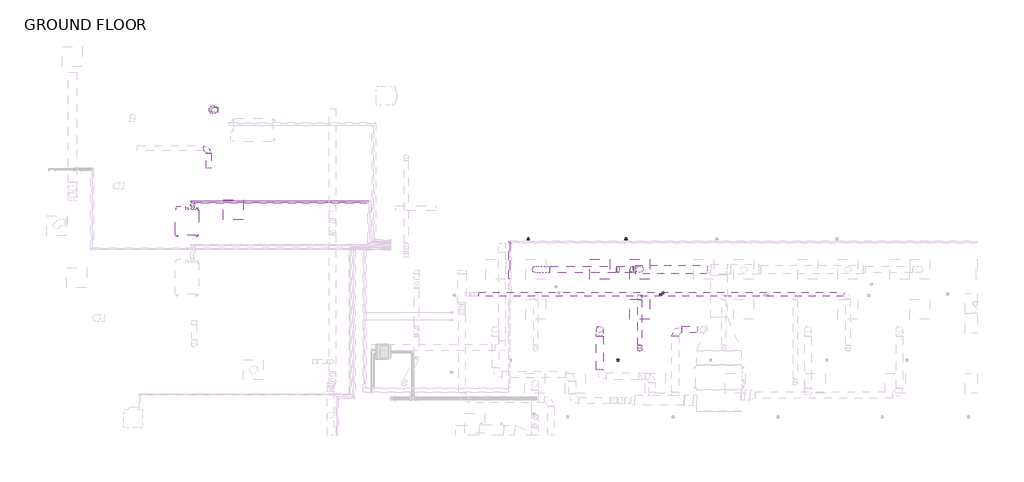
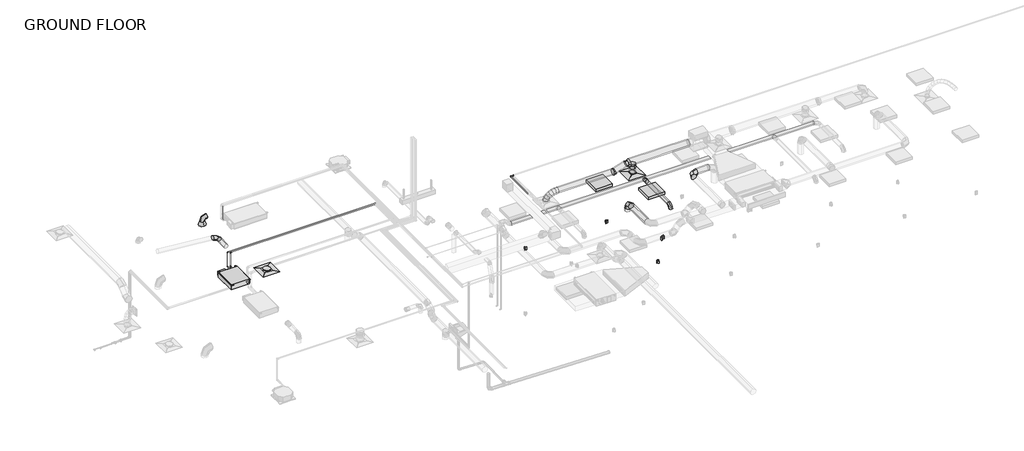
# One storey, part 16 of 21: 13 duct segments, 11 duct fittings, 9 pipe segments, 7 pipe fittings, 5 proxies, 2 air terminals, 2 light fixtures, 1 switching device.
"""IFC4 building model written with IfcOpenShell, lengths in millimetres."""

from ifc_helpers import new_model, si_unit, point, frame, frame_2d, origin, place, context, project, spatial, circle_curve, ellipse_curve, trimmed, segment, composite_curve, outline, extrude, transform, mapped, element, save
from ifc_brep_helpers import plane_surface, cylinder_surface, advanced_brep
from components import air_terminal_a1f6e78c, air_terminal_e9020785, mechanical_equipment_deea6110, duplex_receptacle_countertop_10251bba, round_elbow_1_d_a253342a, round_elbow_1_d_b37ad80b, round_elbow_1_d_c80420c1, round_elbow_1_d_adb29f0a, round_takeoff_standard_ca4b4131, round_takeoff_standard_17dc06e3, round_transition_angle_45_degree_b52f7b1d, round_transition_angle_45_degree_2c0294df, troffer_corner_insert_2x2_3lamp_e67c7f8f, elbow_generic_standard_c06ac706, elbow_generic_standard_738589b0, elbow_generic_standard_3179f303, elbow_generic_standard_e3098451, transition_generic_standard_43f54093

model = new_model("IFC4")

# Units and contexts
model_context = context("Model", 3, world=origin())
ifc_project = project(units=[si_unit("LENGTHUNIT", "METRE", prefix="MILLI")], contexts=[model_context])

# Site, building, storey
site = spatial("IfcSite", under=ifc_project)
building = spatial("IfcBuilding", under=site)
storey = spatial("IfcBuildingStorey", under=building, Name="GROUND FLOOR", Elevation=30480.0)

# Air terminals
placement = place(None, origin())
air_terminal_shape = air_terminal_a1f6e78c(model_context)
element("IfcAirTerminal", 1, ObjectType="Supply Diffuser - Rectangular Face Round Neck - Hosted : 24\"x24\" Face 10\" Neck - Hosted", at=placement, inside=storey, context=model_context, shape_type="MappedRepresentation", body=[
    mapped(air_terminal_shape, transform((-14215.1079607, 8625.8820005, 32715.2), x_axis=(-1.0, 0.0, 0.0), y_axis=(0.0, 1.0, 0.0), z_axis=(0.0, 0.0, -1.0))),
])
air_terminal_2_shape = air_terminal_e9020785(model_context)
element("IfcAirTerminal", 2, ObjectType="Supply Diffuser - Rectangular Face Round Neck - Hosted : 24\"x24\" Face 8\" Neck - Hosted", at=placement, inside=storey, context=model_context, shape_type="MappedRepresentation", body=[
    mapped(air_terminal_2_shape, transform((-1837.3704607, 6811.3695005, 33223.2), x_axis=(0.0, -1.0, 0.0), y_axis=(-1.0, 0.0, 0.0), z_axis=(0.0, 0.0, -1.0))),
])

# Proxies
mechanical_equipment_shape = mechanical_equipment_deea6110(model_context)
element("IfcBuildingElementProxy", 3, Name="PEFY-P-NMSU-E_Low_Profile_Ducted : PEFY-P12NMSU-E", ObjectType="PEFY-P-NMSU-E_Low_Profile_Ducted : PEFY-P12NMSU-E", at=placement, inside=storey, context=model_context, shape_type="MappedRepresentation", body=[
    mapped(mechanical_equipment_shape, transform((-15624.8774525, 8243.4520797, 33021.7207031), x_axis=(0.0, 1.0, 0.0), y_axis=(-1.0, 0.0, 0.0), z_axis=(0.0, 0.0, 1.0))),
])
duplex_receptacle_countertop_shape = duplex_receptacle_countertop_10251bba(model_context)
element("IfcBuildingElementProxy", 4, Name="Duplex Receptacle : Standard", ObjectType="Duplex Receptacle : Standard", at=placement, inside=storey, context=model_context, shape_type="MappedRepresentation", body=[
    mapped(duplex_receptacle_countertop_shape, transform((-5231.5700418, 7725.7695005, 30937.2), x_axis=(-1.0, 0.0, 0.0), y_axis=(0.0, 0.0, -1.0), z_axis=(0.0, -1.0, 0.0))),
])
element("IfcBuildingElementProxy", 5, Name="Duplex Receptacle : Standard", ObjectType="Duplex Receptacle : Standard", at=placement, inside=storey, context=model_context, shape_type="MappedRepresentation", body=[
    mapped(duplex_receptacle_countertop_shape, transform((-2255.887518, 7725.7695005, 30937.2), x_axis=(-1.0, 0.0, 0.0), y_axis=(0.0, 0.0, -1.0), z_axis=(0.0, -1.0, 0.0))),
])
element("IfcBuildingElementProxy", 6, Name="Duplex Receptacle : Standard", ObjectType="Duplex Receptacle : Standard", at=placement, inside=storey, context=model_context, shape_type="MappedRepresentation", body=[
    mapped(duplex_receptacle_countertop_shape, transform((-1227.7704607, 6038.2733061, 30937.2), x_axis=(0.0, -1.0, 0.0), y_axis=(0.0, 0.0, 1.0), z_axis=(-1.0, 0.0, 0.0))),
])
element("IfcBuildingElementProxy", 7, Name="Duplex Receptacle : Standard", ObjectType="Duplex Receptacle : Standard", at=placement, inside=storey, context=model_context, shape_type="MappedRepresentation", body=[
    mapped(duplex_receptacle_countertop_shape, transform((-1103.9454607, 6101.6354535, 30937.2), x_axis=(0.0, 1.0, 0.0), y_axis=(0.0, 0.0, 1.0), z_axis=(1.0, 0.0, 0.0))),
])

# Duct fittings
round_elbow_1_d_shape = round_elbow_1_d_a253342a(model_context)
element("IfcDuctFitting", 8, ObjectType="Round Elbow : 1 D", at=placement, inside=storey, context=model_context, shape_type="MappedRepresentation", body=[
    mapped(round_elbow_1_d_shape, transform((-3056.5704607, 4982.5695005, 33629.6), x_axis=(0.0, 0.0, 1.0), y_axis=(0.0, -1.0, 0.0), z_axis=(1.0, 0.0, 0.0))),
])
element("IfcDuctFitting", 9, ObjectType="Round Elbow : 1 D", at=placement, inside=storey, context=model_context, shape_type="MappedRepresentation", body=[
    mapped(round_elbow_1_d_shape, transform((-754.6339071, 4982.5695005, 33947.89375), x_axis=(-1.0, 0.0, 0.0), y_axis=(0.0, -1.0, 0.0), z_axis=(0.0, 0.0, 1.0))),
])
round_elbow_1_d_2_shape = round_elbow_1_d_b37ad80b(model_context)
element("IfcDuctFitting", 10, ObjectType="Round Elbow : 1 D", at=placement, inside=storey, context=model_context, shape_type="MappedRepresentation", body=[
    mapped(round_elbow_1_d_2_shape, transform((-14824.7079607, 11673.8820005, 33121.6), x_axis=(0.0, 0.0, 1.0), y_axis=(1.0, 0.0, 0.0), z_axis=(0.0, 1.0, 0.0))),
])
element("IfcDuctFitting", 11, ObjectType="Round Elbow : 1 D", at=placement, inside=storey, context=model_context, shape_type="MappedRepresentation", body=[
    mapped(round_elbow_1_d_2_shape, transform((-14970.033703, 10498.3395797, 33121.6), x_axis=(0.0, 1.0, 0.0), y_axis=(-0.9961916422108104, 0.0, 0.08719066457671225), z_axis=(0.08719066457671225, 0.0, 0.9961916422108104))),
])
round_elbow_1_d_3_shape = round_elbow_1_d_c80420c1(model_context)
element("IfcDuctFitting", 12, ObjectType="Round Elbow : 1 D", at=placement, inside=storey, context=model_context, shape_type="MappedRepresentation", body=[
    mapped(round_elbow_1_d_3_shape, transform((-1837.3704607, 4372.9695005, 33464.5), x_axis=(0.0, -1.0, 0.0), y_axis=(0.0, 0.0, -1.0), z_axis=(1.0, 0.0, 0.0))),
])
round_elbow_1_d_4_shape = round_elbow_1_d_adb29f0a(model_context)
element("IfcDuctFitting", 13, ObjectType="Round Elbow : 1 D", at=placement, inside=storey, context=model_context, shape_type="MappedRepresentation", body=[
    mapped(round_elbow_1_d_4_shape, transform((-2055.3843434, 6811.3695005, 33680.0490295), x_axis=(-1.0, 0.0, 0.0), y_axis=(0.0, 0.0, -1.0), z_axis=(0.0, -1.0, 0.0))),
])
element("IfcDuctFitting", 14, ObjectType="Round Elbow : 1 D", at=placement, inside=storey, context=model_context, shape_type="MappedRepresentation", body=[
    mapped(round_elbow_1_d_4_shape, transform((-2523.3431384, 6811.3695005, 33528.0), x_axis=(-0.9510565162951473, 0.0, -0.30901699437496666), y_axis=(-0.30901699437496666, 0.0, 0.9510565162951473), z_axis=(0.0, 1.0, 0.0))),
])
round_takeoff_standard_shape = round_takeoff_standard_ca4b4131(model_context)
element("IfcDuctFitting", 15, ObjectType="Round Takeoff : Standard", at=placement, inside=storey, context=model_context, shape_type="MappedRepresentation", body=[
    mapped(round_takeoff_standard_shape, transform((-1837.3704607, 6811.3695005, 33553.0490295), x_axis=(0.0, 0.0, -1.0), y_axis=(1.0, 0.0, 0.0), z_axis=(0.0, -1.0, 0.0))),
])
round_takeoff_standard_2_shape = round_takeoff_standard_17dc06e3(model_context)
element("IfcDuctFitting", 16, ObjectType="Round Takeoff : Standard", at=placement, inside=storey, context=model_context, shape_type="MappedRepresentation", body=[
    mapped(round_takeoff_standard_2_shape, transform((-1837.3704607, 5985.8695005, 33464.5), x_axis=(0.0, -1.0, 0.0), y_axis=(-1.0, 0.0, 0.0), z_axis=(0.0, 0.0, -1.0))),
])
round_transition_angle_45_degree_shape = round_transition_angle_45_degree_b52f7b1d(model_context)
element("IfcDuctFitting", 17, ObjectType="Round Transition - Angle : 45 Degree", at=placement, inside=storey, context=model_context, shape_type="MappedRepresentation", body=[
    mapped(round_transition_angle_45_degree_shape, transform((-14824.7079607, 11673.8820005, 32846.557951), x_axis=(0.0, 0.0, 1.0), y_axis=(0.0, 1.0, 0.0), z_axis=(-1.0, 0.0, 0.0))),
])
round_transition_angle_45_degree_2_shape = round_transition_angle_45_degree_2c0294df(model_context)
element("IfcDuctFitting", 18, ObjectType="Round Transition - Angle : 45 Degree", at=placement, inside=storey, context=model_context, shape_type="MappedRepresentation", body=[
    mapped(round_transition_angle_45_degree_2_shape, transform((-1961.8796006, 6811.3695005, 33680.0490295), x_axis=(-1.0, 0.0, 0.0), y_axis=(0.0, -1.0, 0.0), z_axis=(0.0, 0.0, 1.0))),
])

# Duct segments
element("IfcDuctSegment", 19, ObjectType="Flex - Round", at=placement, inside=storey, context=model_context, shape_type="AdvancedBrep", body=[
    advanced_brep(
    [(-4580.7431384, 6709.7695005, 33528.0), (-4580.7431384, 6811.3695005, 33426.4), (-4580.7431384, 6912.9695005, 33528.0), (-4580.7431384, 6811.3695005, 33629.6), (-4588.790283, 6709.7695005, 33528.0), (-4584.3622178, 6811.3695005, 33426.4), (-4588.790283, 6912.9695005, 33528.0), (-4593.2183481, 6811.3695005, 33629.6), (-5009.1954607, 6709.7695005, 33277.175), (-5110.7954607, 6811.3695005, 33277.175), (-5009.1954607, 6912.9695005, 33277.175), (-4907.5954607, 6811.3695005, 33277.175), (-4669.9423992, 6709.7695005, 33520.9127807), (-4654.4566913, 6811.3695005, 33420.2784726), (-4669.9423992, 6912.9695005, 33520.9127807), (-4685.4281072, 6811.3695005, 33621.5470889), (-4765.3747964, 6709.7695005, 33499.7470094), (-4736.047964, 6811.3695005, 33402.1824982), (-4765.3747964, 6912.9695005, 33499.7470094), (-4794.7016287, 6811.3695005, 33597.3115207), (-4857.0283155, 6709.7695005, 33464.6465159), (-4811.4139874, 6811.3695005, 33373.3196172), (-4857.0283155, 6912.9695005, 33464.6465159), (-4902.6426435, 6811.3695005, 33555.9734146), (-4934.8909421, 6709.7695005, 33415.75513), (-4867.9774847, 6811.3695005, 33337.8023492), (-4934.8909421, 6912.9695005, 33415.75513), (-5001.8043995, 6811.3695005, 33493.7079107), (-4988.950662, 6709.7695005, 33353.2166814), (-4901.1121467, 6811.3695005, 33299.4708454), (-4988.950662, 6912.9695005, 33353.2166814), (-5076.7891773, 6811.3695005, 33406.9625174), (-5009.1954607, 6709.7695005, 33303.3137649), (-4907.5954607, 6811.3695005, 33283.4896405), (-5009.1954607, 6912.9695005, 33303.3137649), (-5110.7954607, 6811.3695005, 33323.1378893)],
    [
        (0, 1, circle_curve(frame((-4580.7431384, 6811.3695005, 33528.0), z_axis=(1.0, 0.0, 0.0), x_axis=(0.0, -1.0, 0.0)), 101.6)),
        (1, 2, circle_curve(frame((-4580.7431384, 6811.3695005, 33528.0), z_axis=(1.0, 0.0, 0.0), x_axis=(0.0, -1.0, 0.0)), 101.6)),
        (2, 3, circle_curve(frame((-4580.7431384, 6811.3695005, 33528.0), z_axis=(1.0, 0.0, 0.0), x_axis=(0.0, -1.0, 0.0)), 101.6)),
        (3, 0, circle_curve(frame((-4580.7431384, 6811.3695005, 33528.0), z_axis=(1.0, 0.0, 0.0), x_axis=(0.0, -1.0, 0.0)), 101.6)),
        (0, 4),
        (4, 5, ellipse_curve(frame((-4588.790283, 6811.3695005, 33528.0), z_axis=(0.9990515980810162, 0.0, 0.043541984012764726), x_axis=(0.043541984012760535, 0.0, -0.9990515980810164)), 101.6964491, 101.6)),
        (5, 1),
        (5, 6, ellipse_curve(frame((-4588.790283, 6811.3695005, 33528.0), z_axis=(0.9990515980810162, 0.0, 0.043541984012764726), x_axis=(0.043541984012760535, 0.0, -0.9990515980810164)), 101.6964491, 101.6)),
        (6, 2),
        (6, 7, ellipse_curve(frame((-4588.790283, 6811.3695005, 33528.0), z_axis=(0.9990515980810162, 0.0, 0.043541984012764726), x_axis=(0.043541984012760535, 0.0, -0.9990515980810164)), 101.6964491, 101.6)),
        (7, 3),
        (7, 4, ellipse_curve(frame((-4588.790283, 6811.3695005, 33528.0), z_axis=(0.9990515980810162, 0.0, 0.043541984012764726), x_axis=(0.043541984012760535, 0.0, -0.9990515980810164)), 101.6964491, 101.6)),
        (8, 9, circle_curve(frame((-5009.1954607, 6811.3695005, 33277.175), z_axis=(0.0, 0.0, -1.0), x_axis=(0.0, -1.0, 0.0)), 101.6)),
        (9, 10, circle_curve(frame((-5009.1954607, 6811.3695005, 33277.175), z_axis=(0.0, 0.0, -1.0), x_axis=(0.0, -1.0, 0.0)), 101.6)),
        (10, 11, circle_curve(frame((-5009.1954607, 6811.3695005, 33277.175), z_axis=(0.0, 0.0, -1.0), x_axis=(0.0, -1.0, 0.0)), 101.6)),
        (11, 8, circle_curve(frame((-5009.1954607, 6811.3695005, 33277.175), z_axis=(0.0, 0.0, -1.0), x_axis=(0.0, -1.0, 0.0)), 101.6)),
        (4, 12),
        (12, 13, ellipse_curve(frame((-4669.9423992, 6811.3695005, 33520.9127807), z_axis=(0.9883665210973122, 0.0, 0.15209082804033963), x_axis=(0.15209082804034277, 0.0, -0.9883665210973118)), 101.8188152, 101.6)),
        (13, 5),
        (13, 14, ellipse_curve(frame((-4669.9423992, 6811.3695005, 33520.9127807), z_axis=(0.9883665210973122, 0.0, 0.15209082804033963), x_axis=(0.15209082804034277, 0.0, -0.9883665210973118)), 101.8188152, 101.6)),
        (14, 6),
        (14, 15, ellipse_curve(frame((-4669.9423992, 6811.3695005, 33520.9127807), z_axis=(0.9883665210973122, 0.0, 0.15209082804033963), x_axis=(0.15209082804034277, 0.0, -0.9883665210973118)), 101.8188152, 101.6)),
        (15, 7),
        (15, 12, ellipse_curve(frame((-4669.9423992, 6811.3695005, 33520.9127807), z_axis=(0.9883665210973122, 0.0, 0.15209082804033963), x_axis=(0.15209082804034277, 0.0, -0.9883665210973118)), 101.8188152, 101.6)),
        (12, 16),
        (16, 17, ellipse_curve(frame((-4765.3747964, 6811.3695005, 33499.7470094), z_axis=(0.9576708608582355, 0.0, 0.2878654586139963), x_axis=(0.2878654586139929, 0.0, -0.9576708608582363)), 101.8768715, 101.6)),
        (17, 13),
        (17, 18, ellipse_curve(frame((-4765.3747964, 6811.3695005, 33499.7470094), z_axis=(0.9576708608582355, 0.0, 0.2878654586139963), x_axis=(0.2878654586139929, 0.0, -0.9576708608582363)), 101.8768715, 101.6)),
        (18, 14),
        (18, 19, ellipse_curve(frame((-4765.3747964, 6811.3695005, 33499.7470094), z_axis=(0.9576708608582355, 0.0, 0.2878654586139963), x_axis=(0.2878654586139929, 0.0, -0.9576708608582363)), 101.8768715, 101.6)),
        (19, 15),
        (19, 16, ellipse_curve(frame((-4765.3747964, 6811.3695005, 33499.7470094), z_axis=(0.9576708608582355, 0.0, 0.2878654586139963), x_axis=(0.2878654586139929, 0.0, -0.9576708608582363)), 101.8768715, 101.6)),
        (16, 20),
        (20, 21, ellipse_curve(frame((-4857.0283155, 6811.3695005, 33464.6465159), z_axis=(0.8946195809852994, 0.0, 0.4468286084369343), x_axis=(0.44682860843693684, 0.0, -0.8946195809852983)), 102.0846186, 101.6)),
        (21, 17),
        (21, 22, ellipse_curve(frame((-4857.0283155, 6811.3695005, 33464.6465159), z_axis=(0.8946195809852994, 0.0, 0.4468286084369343), x_axis=(0.44682860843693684, 0.0, -0.8946195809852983)), 102.0846186, 101.6)),
        (22, 18),
        (22, 23, ellipse_curve(frame((-4857.0283155, 6811.3695005, 33464.6465159), z_axis=(0.8946195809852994, 0.0, 0.4468286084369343), x_axis=(0.44682860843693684, 0.0, -0.8946195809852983)), 102.0846186, 101.6)),
        (23, 19),
        (23, 20, ellipse_curve(frame((-4857.0283155, 6811.3695005, 33464.6465159), z_axis=(0.8946195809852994, 0.0, 0.4468286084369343), x_axis=(0.44682860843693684, 0.0, -0.8946195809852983)), 102.0846186, 101.6)),
        (20, 24),
        (24, 25, ellipse_curve(frame((-4934.8909421, 6811.3695005, 33415.75513), z_axis=(0.7587908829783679, 0.0, 0.6513343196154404), x_axis=(0.6513343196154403, 0.0, -0.758790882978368)), 102.7328906, 101.6)),
        (25, 21),
        (25, 26, ellipse_curve(frame((-4934.8909421, 6811.3695005, 33415.75513), z_axis=(0.7587908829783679, 0.0, 0.6513343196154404), x_axis=(0.6513343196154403, 0.0, -0.758790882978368)), 102.7328906, 101.6)),
        (26, 22),
        (26, 27, ellipse_curve(frame((-4934.8909421, 6811.3695005, 33415.75513), z_axis=(0.7587908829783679, 0.0, 0.6513343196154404), x_axis=(0.6513343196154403, 0.0, -0.758790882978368)), 102.7328906, 101.6)),
        (27, 23),
        (27, 24, ellipse_curve(frame((-4934.8909421, 6811.3695005, 33415.75513), z_axis=(0.7587908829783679, 0.0, 0.6513343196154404), x_axis=(0.6513343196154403, 0.0, -0.758790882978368)), 102.7328906, 101.6)),
        (24, 28),
        (28, 29, ellipse_curve(frame((-4988.950662, 6811.3695005, 33353.2166814), z_axis=(0.5219218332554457, 0.0, 0.852993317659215), x_axis=(0.8529933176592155, 0.0, -0.521921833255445)), 102.9767918, 101.6)),
        (29, 25),
        (29, 30, ellipse_curve(frame((-4988.950662, 6811.3695005, 33353.2166814), z_axis=(0.5219218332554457, 0.0, 0.852993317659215), x_axis=(0.8529933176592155, 0.0, -0.521921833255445)), 102.9767918, 101.6)),
        (30, 26),
        (30, 31, ellipse_curve(frame((-4988.950662, 6811.3695005, 33353.2166814), z_axis=(0.5219218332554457, 0.0, 0.852993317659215), x_axis=(0.8529933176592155, 0.0, -0.521921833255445)), 102.9767918, 101.6)),
        (31, 27),
        (31, 28, ellipse_curve(frame((-4988.950662, 6811.3695005, 33353.2166814), z_axis=(0.5219218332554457, 0.0, 0.852993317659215), x_axis=(0.8529933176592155, 0.0, -0.521921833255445)), 102.9767918, 101.6)),
        (28, 32),
        (32, 33, ellipse_curve(frame((-5009.1954607, 6811.3695005, 33303.3137649), z_axis=(0.1915078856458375, 0.0, 0.9814910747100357), x_axis=(0.9814910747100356, 0.0, -0.1915078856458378)), 103.5159693, 101.6)),
        (33, 29),
        (33, 34, ellipse_curve(frame((-5009.1954607, 6811.3695005, 33303.3137649), z_axis=(0.1915078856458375, 0.0, 0.9814910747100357), x_axis=(0.9814910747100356, 0.0, -0.1915078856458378)), 103.5159693, 101.6)),
        (34, 30),
        (34, 35, ellipse_curve(frame((-5009.1954607, 6811.3695005, 33303.3137649), z_axis=(0.1915078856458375, 0.0, 0.9814910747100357), x_axis=(0.9814910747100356, 0.0, -0.1915078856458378)), 103.5159693, 101.6)),
        (35, 31),
        (35, 32, ellipse_curve(frame((-5009.1954607, 6811.3695005, 33303.3137649), z_axis=(0.1915078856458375, 0.0, 0.9814910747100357), x_axis=(0.9814910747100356, 0.0, -0.1915078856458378)), 103.5159693, 101.6)),
        (32, 8),
        (11, 33),
        (10, 34),
        (9, 35),
    ],
    [
        plane_surface(frame((-4580.7431384, 6811.3695005, 33426.4), z_axis=(1.0, 0.0, 0.0), x_axis=(0.0, -1.0, 0.0))),
        cylinder_surface(frame((-4580.7431384, 6811.3695005, 33528.0), z_axis=(1.0, 0.0, 0.0), x_axis=(0.0, -1.0, 0.0)), 101.6),
        plane_surface(frame((-5009.1954607, 6709.7695005, 33277.175), z_axis=(0.0, 0.0, -1.0), x_axis=(-1.0, 0.0, 0.0))),
        cylinder_surface(frame((-4588.790283, 6811.3695005, 33528.0), z_axis=(0.9962081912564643, 0.0, 0.0870013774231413), x_axis=(0.0, -1.0, 0.0)), 101.6),
        cylinder_surface(frame((-4669.9423992, 6811.3695005, 33520.9127807), z_axis=(0.9762767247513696, 0.0, 0.2165265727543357), x_axis=(0.0, -1.0, 0.0)), 101.6),
        cylinder_surface(frame((-4765.3747964, 6811.3695005, 33499.7470094), z_axis=(0.9338596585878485, 0.0, 0.3576396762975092), x_axis=(0.0, -1.0, 0.0)), 101.6),
        cylinder_surface(frame((-4857.0283155, 6811.3695005, 33464.6465159), z_axis=(0.8468855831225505, 0.0, 0.5317751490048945), x_axis=(0.0, -1.0, 0.0)), 101.6),
        cylinder_surface(frame((-4934.8909421, 6811.3695005, 33415.75513), z_axis=(0.653960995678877, 0.0, 0.7565282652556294), x_axis=(0.0, -1.0, 0.0)), 101.6),
        cylinder_surface(frame((-4988.950662, 6811.3695005, 33353.2166814), z_axis=(0.3759265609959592, 0.0, 0.9266494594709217), x_axis=(0.0, -1.0, 0.0)), 101.6),
        cylinder_surface(frame((-5009.1954607, 6811.3695005, 33303.3137649), z_axis=(0.0, 0.0, 1.0), x_axis=(0.0, -1.0, 0.0)), 101.6),
    ],
    [
        (0, [[1, 2, 3, 4]]),
        (1, [[-1, 5, 6, 7]]),
        (1, [[-2, -7, 8, 9]]),
        (1, [[-3, -9, 10, 11]]),
        (1, [[-4, -11, 12, -5]]),
        (2, [[13, 14, 15, 16]]),
        (3, [[-6, 17, 18, 19]]),
        (3, [[-8, -19, 20, 21]]),
        (3, [[-10, -21, 22, 23]]),
        (3, [[-12, -23, 24, -17]]),
        (4, [[-18, 25, 26, 27]]),
        (4, [[-20, -27, 28, 29]]),
        (4, [[-22, -29, 30, 31]]),
        (4, [[-24, -31, 32, -25]]),
        (5, [[-26, 33, 34, 35]]),
        (5, [[-28, -35, 36, 37]]),
        (5, [[-30, -37, 38, 39]]),
        (5, [[-32, -39, 40, -33]]),
        (6, [[-34, 41, 42, 43]]),
        (6, [[-36, -43, 44, 45]]),
        (6, [[-38, -45, 46, 47]]),
        (6, [[-40, -47, 48, -41]]),
        (7, [[-42, 49, 50, 51]]),
        (7, [[-44, -51, 52, 53]]),
        (7, [[-46, -53, 54, 55]]),
        (7, [[-48, -55, 56, -49]]),
        (8, [[-50, 57, 58, 59]]),
        (8, [[-52, -59, 60, 61]]),
        (8, [[-54, -61, 62, 63]]),
        (8, [[-56, -63, 64, -57]]),
        (9, [[-58, 65, -16, 66]]),
        (9, [[-60, -66, -15, 67]]),
        (9, [[-62, -67, -14, 68]]),
        (9, [[-64, -68, -13, -65]]),
    ],
),
])
element("IfcDuctSegment", 20, ObjectType="Taps / Short Radius", at=placement, inside=storey, context=model_context, shape_type="SweptSolid", body=[
    extrude(outline(composite_curve([segment(trimmed(circle_curve(frame_2d((-14824.7079607, 11673.8820005)), 127.0), [point((-14824.7079607, 11546.8820005))], [point((-14951.7079607, 11673.8820005))], False, "CARTESIAN"), True, "CONTINUOUS"), segment(trimmed(circle_curve(frame_2d((-14824.7079607, 11673.8820005)), 127.0), [point((-14951.7079607, 11673.8820005))], [point((-14824.7079607, 11800.8820005))], False, "CARTESIAN"), True, "CONTINUOUS"), segment(trimmed(circle_curve(frame_2d((-14824.7079607, 11673.8820005)), 127.0), [point((-14824.7079607, 11800.8820005))], [point((-14697.7079607, 11673.8820005))], False, "CARTESIAN"), True, "CONTINUOUS"), segment(trimmed(circle_curve(frame_2d((-14824.7079607, 11673.8820005)), 127.0), [point((-14697.7079607, 11673.8820005))], [point((-14824.7079607, 11546.8820005))], False, "CARTESIAN"), True, "CONTINUOUS")], self_intersect=False)), frame((0.0, 0.0, 32816.8), z_axis=(0.0, 0.0, 1.0), x_axis=(1.0, 0.0, 0.0)), (0.0, 0.0, 1.0), 29.757951),
])
element("IfcDuctSegment", 21, ObjectType="Taps / Short Radius", at=placement, inside=storey, context=model_context, shape_type="SweptSolid", body=[
    extrude(outline(composite_curve([segment(trimmed(circle_curve(frame_2d((6811.3695005, 33680.0490295)), 127.0), [point((6938.3695005, 33680.0490295))], [point((6811.3695005, 33553.0490295))], False, "CARTESIAN"), True, "CONTINUOUS"), segment(trimmed(circle_curve(frame_2d((6811.3695005, 33680.0490295)), 127.0), [point((6811.3695005, 33553.0490295))], [point((6684.3695005, 33680.0490295))], False, "CARTESIAN"), True, "CONTINUOUS"), segment(trimmed(circle_curve(frame_2d((6811.3695005, 33680.0490295)), 127.0), [point((6684.3695005, 33680.0490295))], [point((6811.3695005, 33807.0490295))], False, "CARTESIAN"), True, "CONTINUOUS"), segment(trimmed(circle_curve(frame_2d((6811.3695005, 33680.0490295)), 127.0), [point((6811.3695005, 33807.0490295))], [point((6938.3695005, 33680.0490295))], False, "CARTESIAN"), True, "CONTINUOUS")], self_intersect=False)), frame((-1961.8796006, 0.0, 0.0), z_axis=(1.0, 0.0, 0.0), x_axis=(0.0, 1.0, 0.0)), (0.0, 0.0, 1.0), 2182.2731725),
])
element("IfcDuctSegment", 22, ObjectType="Taps / Short Radius", at=placement, inside=storey, context=model_context, shape_type="SweptSolid", body=[
    extrude(outline(composite_curve([segment(trimmed(circle_curve(frame_2d((0.0, -101.6)), 101.6), [point((0.0, 0.0))], [point((101.6, -101.6))], False, "CARTESIAN"), True, "CONTINUOUS"), segment(trimmed(circle_curve(frame_2d((0.0, -101.6)), 101.6), [point((101.6, -101.6))], [point((0.0, -203.2))], False, "CARTESIAN"), True, "CONTINUOUS"), segment(trimmed(circle_curve(frame_2d((0.0, -101.6)), 101.6), [point((0.0, -203.2))], [point((-101.6, -101.6))], False, "CARTESIAN"), True, "CONTINUOUS"), segment(trimmed(circle_curve(frame_2d((0.0, -101.6)), 101.6), [point((-101.6, -101.6))], [point((0.0, 0.0))], False, "CARTESIAN"), True, "CONTINUOUS")], self_intersect=False)), frame((-2492.7346034, 6912.9695005, 33537.9453159), z_axis=(0.9510565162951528, 0.0, 0.30901699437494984), x_axis=(0.30901699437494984, 0.0, -0.9510565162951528)), (0.0, 0.0, 1.0), 427.6735589),
])
element("IfcDuctSegment", 23, ObjectType="Taps / Short Radius", at=placement, inside=storey, context=model_context, shape_type="SweptSolid", body=[
    extrude(outline(composite_curve([segment(trimmed(circle_curve(frame_2d((6811.3695005, 33528.0)), 101.6), [point((6912.9695005, 33528.0))], [point((6811.3695005, 33426.4))], False, "CARTESIAN"), True, "CONTINUOUS"), segment(trimmed(circle_curve(frame_2d((6811.3695005, 33528.0)), 101.6), [point((6811.3695005, 33426.4))], [point((6709.7695005, 33528.0))], False, "CARTESIAN"), True, "CONTINUOUS"), segment(trimmed(circle_curve(frame_2d((6811.3695005, 33528.0)), 101.6), [point((6709.7695005, 33528.0))], [point((6811.3695005, 33629.6))], False, "CARTESIAN"), True, "CONTINUOUS"), segment(trimmed(circle_curve(frame_2d((6811.3695005, 33528.0)), 101.6), [point((6811.3695005, 33629.6))], [point((6912.9695005, 33528.0))], False, "CARTESIAN"), True, "CONTINUOUS")], self_intersect=False)), frame((-4580.7431384, 0.0, 0.0), z_axis=(1.0, 0.0, 0.0), x_axis=(0.0, 1.0, 0.0)), (0.0, 0.0, 1.0), 2025.2162817),
])
element("IfcDuctSegment", 24, ObjectType="Taps / Short Radius", at=placement, inside=storey, context=model_context, shape_type="SweptSolid", body=[
    extrude(outline(composite_curve([segment(trimmed(circle_curve(frame_2d((-1837.3704607, 6811.3695005)), 101.6), [point((-1735.7704607, 6811.3695005))], [point((-1837.3704607, 6709.7695005))], False, "CARTESIAN"), True, "CONTINUOUS"), segment(trimmed(circle_curve(frame_2d((-1837.3704607, 6811.3695005)), 101.6), [point((-1837.3704607, 6709.7695005))], [point((-1938.9704607, 6811.3695005))], False, "CARTESIAN"), True, "CONTINUOUS"), segment(trimmed(circle_curve(frame_2d((-1837.3704607, 6811.3695005)), 101.6), [point((-1938.9704607, 6811.3695005))], [point((-1837.3704607, 6912.9695005))], False, "CARTESIAN"), True, "CONTINUOUS"), segment(trimmed(circle_curve(frame_2d((-1837.3704607, 6811.3695005)), 101.6), [point((-1837.3704607, 6912.9695005))], [point((-1735.7704607, 6811.3695005))], False, "CARTESIAN"), True, "CONTINUOUS")], self_intersect=False)), frame((0.0, 0.0, 33277.175), z_axis=(0.0, 0.0, 1.0), x_axis=(1.0, 0.0, 0.0)), (0.0, 0.0, 1.0), 174.2740295),
])
element("IfcDuctSegment", 25, ObjectType="Taps / Short Radius", at=placement, inside=storey, context=model_context, shape_type="SweptSolid", body=[
    extrude(outline(composite_curve([segment(trimmed(circle_curve(frame_2d((33629.6, -3056.5704607)), 101.6), [point((33629.6, -3158.1704607))], [point((33528.0, -3056.5704607))], False, "CARTESIAN"), True, "CONTINUOUS"), segment(trimmed(circle_curve(frame_2d((33629.6, -3056.5704607)), 101.6), [point((33528.0, -3056.5704607))], [point((33629.6, -2954.9704607))], False, "CARTESIAN"), True, "CONTINUOUS"), segment(trimmed(circle_curve(frame_2d((33629.6, -3056.5704607)), 101.6), [point((33629.6, -2954.9704607))], [point((33731.2, -3056.5704607))], False, "CARTESIAN"), True, "CONTINUOUS"), segment(trimmed(circle_curve(frame_2d((33629.6, -3056.5704607)), 101.6), [point((33731.2, -3056.5704607))], [point((33629.6, -3158.1704607))], False, "CARTESIAN"), True, "CONTINUOUS")], self_intersect=False)), frame((0.0, 3758.101218, 0.0), z_axis=(0.0, 1.0, 0.0), x_axis=(0.0, 0.0, 1.0)), (0.0, 0.0, 1.0), 1021.2682826),
])
element("IfcDuctSegment", 26, ObjectType="Taps / Short Radius", at=placement, inside=storey, context=model_context, shape_type="SweptSolid", body=[
    extrude(outline(composite_curve([segment(trimmed(circle_curve(frame_2d((-3056.5704607, 4982.5695005)), 101.6), [point((-3158.1704607, 4982.5695005))], [point((-3056.5704607, 5084.1695005))], False, "CARTESIAN"), True, "CONTINUOUS"), segment(trimmed(circle_curve(frame_2d((-3056.5704607, 4982.5695005)), 101.6), [point((-3056.5704607, 5084.1695005))], [point((-2954.9704607, 4982.5695005))], False, "CARTESIAN"), True, "CONTINUOUS"), segment(trimmed(circle_curve(frame_2d((-3056.5704607, 4982.5695005)), 101.6), [point((-2954.9704607, 4982.5695005))], [point((-3056.5704607, 4880.9695005))], False, "CARTESIAN"), True, "CONTINUOUS"), segment(trimmed(circle_curve(frame_2d((-3056.5704607, 4982.5695005)), 101.6), [point((-3056.5704607, 4880.9695005))], [point((-3158.1704607, 4982.5695005))], False, "CARTESIAN"), True, "CONTINUOUS")], self_intersect=False)), frame((0.0, 0.0, 33324.8), z_axis=(0.0, 0.0, 1.0), x_axis=(1.0, 0.0, 0.0)), (0.0, 0.0, 1.0), 101.6),
])
element("IfcDuctSegment", 27, ObjectType="Taps / Short Radius", at=placement, inside=storey, context=model_context, shape_type="SweptSolid", body=[
    extrude(outline(composite_curve([segment(trimmed(circle_curve(frame_2d((4982.5695005, 33947.89375)), 101.6), [point((5084.1695005, 33947.89375))], [point((4982.5695005, 33846.29375))], False, "CARTESIAN"), True, "CONTINUOUS"), segment(trimmed(circle_curve(frame_2d((4982.5695005, 33947.89375)), 101.6), [point((4982.5695005, 33846.29375))], [point((4880.9695005, 33947.89375))], False, "CARTESIAN"), True, "CONTINUOUS"), segment(trimmed(circle_curve(frame_2d((4982.5695005, 33947.89375)), 101.6), [point((4880.9695005, 33947.89375))], [point((4982.5695005, 34049.49375))], False, "CARTESIAN"), True, "CONTINUOUS"), segment(trimmed(circle_curve(frame_2d((4982.5695005, 33947.89375)), 101.6), [point((4982.5695005, 34049.49375))], [point((5084.1695005, 33947.89375))], False, "CARTESIAN"), True, "CONTINUOUS")], self_intersect=False)), frame((-551.4339071, 0.0, 0.0), z_axis=(1.0, 0.0, 0.0), x_axis=(0.0, 1.0, 0.0)), (0.0, 0.0, 1.0), 463.4884464),
])
element("IfcDuctSegment", 28, ObjectType="Taps / Short Radius", at=placement, inside=storey, context=model_context, shape_type="SweptSolid", body=[
    extrude(outline(composite_curve([segment(trimmed(circle_curve(frame_2d((0.0, 63.5)), 63.5), [point((-63.5, 63.5))], [point((0.0, 127.0))], False, "CARTESIAN"), True, "CONTINUOUS"), segment(trimmed(circle_curve(frame_2d((0.0, 63.5)), 63.5), [point((0.0, 127.0))], [point((63.5, 63.5))], False, "CARTESIAN"), True, "CONTINUOUS"), segment(trimmed(circle_curve(frame_2d((0.0, 63.5)), 63.5), [point((63.5, 63.5))], [point((0.0, 0.0))], False, "CARTESIAN"), True, "CONTINUOUS"), segment(trimmed(circle_curve(frame_2d((0.0, 63.5)), 63.5), [point((0.0, 0.0))], [point((-63.5, 63.5))], False, "CARTESIAN"), True, "CONTINUOUS")], self_intersect=False)), frame((-1837.3704607, 4309.4695005, 33324.8), z_axis=(0.0, -1.0231815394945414e-12, 1.0), x_axis=(1.0, 0.0, 0.0)), (0.0, 0.0, 1.0), 12.7),
])
element("IfcDuctSegment", 29, ObjectType="Taps / Short Radius", at=placement, inside=storey, context=model_context, shape_type="SweptSolid", body=[
    extrude(outline(composite_curve([segment(trimmed(circle_curve(frame_2d((33464.5, -1837.3704607)), 63.5), [point((33464.5, -1900.8704607))], [point((33401.0, -1837.3704607))], False, "CARTESIAN"), True, "CONTINUOUS"), segment(trimmed(circle_curve(frame_2d((33464.5, -1837.3704607)), 63.5), [point((33401.0, -1837.3704607))], [point((33464.5, -1773.8704607))], False, "CARTESIAN"), True, "CONTINUOUS"), segment(trimmed(circle_curve(frame_2d((33464.5, -1837.3704607)), 63.5), [point((33464.5, -1773.8704607))], [point((33528.0, -1837.3704607))], False, "CARTESIAN"), True, "CONTINUOUS"), segment(trimmed(circle_curve(frame_2d((33464.5, -1837.3704607)), 63.5), [point((33528.0, -1837.3704607))], [point((33464.5, -1900.8704607))], False, "CARTESIAN"), True, "CONTINUOUS")], self_intersect=False)), frame((0.0, 4499.9695005, 0.0), z_axis=(0.0, 1.0, 0.0), x_axis=(0.0, 0.0, 1.0)), (0.0, 0.0, 1.0), 1384.3),
])
element("IfcDuctSegment", 30, ObjectType="Taps / Short Radius", at=placement, inside=storey, context=model_context, shape_type="SweptSolid", body=[
    extrude(outline(composite_curve([segment(trimmed(circle_curve(frame_2d((33121.6, -14970.033703)), 76.2), [point((33121.6, -14893.833703))], [point((33197.8, -14970.033703))], False, "CARTESIAN"), True, "CONTINUOUS"), segment(trimmed(circle_curve(frame_2d((33121.6, -14970.033703)), 76.2), [point((33197.8, -14970.033703))], [point((33121.6, -15046.233703))], False, "CARTESIAN"), True, "CONTINUOUS"), segment(trimmed(circle_curve(frame_2d((33121.6, -14970.033703)), 76.2), [point((33121.6, -15046.233703))], [point((33045.4, -14970.033703))], False, "CARTESIAN"), True, "CONTINUOUS"), segment(trimmed(circle_curve(frame_2d((33121.6, -14970.033703)), 76.2), [point((33045.4, -14970.033703))], [point((33121.6, -14893.833703))], False, "CARTESIAN"), True, "CONTINUOUS")], self_intersect=False)), frame((0.0, 9884.3816287, 0.0), z_axis=(0.0, 1.0, 0.0), x_axis=(0.0, 0.0, 1.0)), (0.0, 0.0, 1.0), 461.557951),
])
element("IfcDuctSegment", 31, ObjectType="Taps / Short Radius", at=placement, inside=storey, context=model_context, shape_type="SweptSolid", body=[
    extrude(outline(composite_curve([segment(trimmed(circle_curve(frame_2d((6049.3695005, 33464.5)), 63.5), [point((5985.8695005, 33464.5))], [point((6049.3695005, 33528.0))], False, "CARTESIAN"), True, "CONTINUOUS"), segment(trimmed(circle_curve(frame_2d((6049.3695005, 33464.5)), 63.5), [point((6049.3695005, 33528.0))], [point((6112.8695005, 33464.5))], False, "CARTESIAN"), True, "CONTINUOUS"), segment(trimmed(circle_curve(frame_2d((6049.3695005, 33464.5)), 63.5), [point((6112.8695005, 33464.5))], [point((6049.3695005, 33401.0))], False, "CARTESIAN"), True, "CONTINUOUS"), segment(trimmed(circle_curve(frame_2d((6049.3695005, 33464.5)), 63.5), [point((6049.3695005, 33401.0))], [point((5985.8695005, 33464.5))], False, "CARTESIAN"), True, "CONTINUOUS")], self_intersect=False)), frame((-6741.227503, 0.0, 0.0), z_axis=(1.0, 0.0, 0.0), x_axis=(0.0, 1.0, 0.0)), (0.0, 0.0, 1.0), 11120.5070423),
])

# Light fixtures
troffer_corner_insert_2x2_3lamp_shape = troffer_corner_insert_2x2_3lamp_e67c7f8f(model_context)
element("IfcLightFixture", 32, ObjectType="Troffer Corner Insert : 2x2 3Lamp", at=placement, inside=storey, context=model_context, shape_type="MappedRepresentation", body=[
    mapped(troffer_corner_insert_2x2_3lamp_shape, transform((-3056.5704607, 6811.3695005, 30784.8), x_axis=(1.0, 0.0, 0.0), y_axis=(0.0, 1.0, 0.0), z_axis=(0.0, 0.0, 1.0))),
])
element("IfcLightFixture", 33, ObjectType="Troffer Corner Insert : 2x2 3Lamp", at=placement, inside=storey, context=model_context, shape_type="MappedRepresentation", body=[
    mapped(troffer_corner_insert_2x2_3lamp_shape, transform((-1837.3704607, 5592.1695005, 30784.8), x_axis=(1.0, 0.0, 0.0), y_axis=(0.0, 1.0, 0.0), z_axis=(0.0, 0.0, 1.0))),
])

# Pipe fittings
elbow_generic_standard_shape = elbow_generic_standard_c06ac706(model_context)
element("IfcPipeFitting", 34, ObjectType="Elbow - Generic : Standard", at=placement, inside=storey, context=model_context, shape_type="MappedRepresentation", body=[
    mapped(elbow_generic_standard_shape, transform((-15415.123395, 8840.3395774, 33680.4), x_axis=(0.0, 0.0, 1.0), y_axis=(1.0, 0.0, 0.0), z_axis=(0.0, 1.0, 0.0))),
])
element("IfcPipeFitting", 35, ObjectType="Elbow - Generic : Standard", at=placement, inside=storey, context=model_context, shape_type="MappedRepresentation", body=[
    mapped(elbow_generic_standard_shape, transform((-5818.8204607, 7665.0593518, 33978.2831664), x_axis=(-1.0, 0.0, 0.0), y_axis=(0.0, -1.0, 0.0), z_axis=(0.0, 0.0, 1.0))),
])
element("IfcPipeFitting", 36, ObjectType="Elbow - Generic : Standard", at=placement, inside=storey, context=model_context, shape_type="MappedRepresentation", body=[
    mapped(elbow_generic_standard_shape, transform((-5760.4443281, 7628.1810166, 34023.2999997), x_axis=(-1.0, 0.0, 0.0), y_axis=(0.0, -1.0, 0.0), z_axis=(0.0, 0.0, 1.0))),
])
elbow_generic_standard_2_shape = elbow_generic_standard_738589b0(model_context)
element("IfcPipeFitting", 37, ObjectType="Elbow - Generic : Standard", at=placement, inside=storey, context=model_context, shape_type="MappedRepresentation", body=[
    mapped(elbow_generic_standard_2_shape, transform((-15498.3177546, 8891.1395782, 33680.4), x_axis=(0.0, 0.0, 1.0), y_axis=(1.0, 0.0, 0.0), z_axis=(0.0, 1.0, 0.0))),
])
elbow_generic_standard_3_shape = elbow_generic_standard_3179f303(model_context)
element("IfcPipeFitting", 38, ObjectType="Elbow - Generic : Standard", at=placement, inside=storey, context=model_context, shape_type="MappedRepresentation", body=[
    mapped(elbow_generic_standard_3_shape, transform((-15415.123395, 8840.3395774, 33121.6992188), x_axis=(0.0, 0.9999999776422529, -0.00021146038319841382), y_axis=(0.0, 0.00021146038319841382, 0.9999999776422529), z_axis=(1.0, 0.0, 0.0))),
])
elbow_generic_standard_4_shape = elbow_generic_standard_e3098451(model_context)
element("IfcPipeFitting", 39, ObjectType="Elbow - Generic : Standard", at=placement, inside=storey, context=model_context, shape_type="MappedRepresentation", body=[
    mapped(elbow_generic_standard_4_shape, transform((-15498.3177546, 8891.1395782, 33121.6992188), x_axis=(0.0, 0.9999999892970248, -0.00014630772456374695), y_axis=(0.0, 0.00014630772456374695, 0.9999999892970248), z_axis=(1.0, 0.0, 0.0))),
])
transition_generic_standard_shape = transition_generic_standard_43f54093(model_context)
element("IfcPipeFitting", 40, ObjectType="Transition - Generic : Standard", at=placement, inside=storey, context=model_context, shape_type="MappedRepresentation", body=[
    mapped(transition_generic_standard_shape, transform((-15498.3177546, 8738.7395797, 33121.7207031), x_axis=(0.0, 1.0, 0.0), y_axis=(-1.0, 0.0, 0.0), z_axis=(0.0, 0.0, 1.0))),
])

# Pipe segments
element("IfcPipeSegment", 41, ObjectType="Copper", at=placement, inside=storey, context=model_context, shape_type="SweptSolid", body=[
    extrude(outline(composite_curve([segment(trimmed(circle_curve(frame_2d((-14343.6452537, 11191.5268827)), 11.1125), [point((-14354.7577537, 11191.5268827))], [point((-14343.6452537, 11202.6393827))], False, "CARTESIAN"), True, "CONTINUOUS"), segment(trimmed(circle_curve(frame_2d((-14343.6452537, 11191.5268827)), 11.1125), [point((-14343.6452537, 11202.6393827))], [point((-14332.5327537, 11191.5268827))], False, "CARTESIAN"), True, "CONTINUOUS"), segment(trimmed(circle_curve(frame_2d((-14343.6452537, 11191.5268827)), 11.1125), [point((-14332.5327537, 11191.5268827))], [point((-14343.6452537, 11180.4143827))], False, "CARTESIAN"), True, "CONTINUOUS"), segment(trimmed(circle_curve(frame_2d((-14343.6452537, 11191.5268827)), 11.1125), [point((-14343.6452537, 11180.4143827))], [point((-14354.7577537, 11191.5268827))], False, "CARTESIAN"), True, "CONTINUOUS")], self_intersect=False)), frame((0.0, 0.0, 33144.684375), z_axis=(0.0, 0.0, 1.0), x_axis=(1.0, 0.0, 0.0)), (0.0, 0.0, 1.0), 518.253125),
])
element("IfcPipeSegment", 42, ObjectType="Copper", at=placement, inside=storey, context=model_context, shape_type="SweptSolid", body=[
    extrude(outline(composite_curve([segment(trimmed(circle_curve(frame_2d((11191.5268827, 33121.690625)), 9.5), [point((11201.0268827, 33121.690625))], [point((11191.5268827, 33112.190625))], False, "CARTESIAN"), True, "CONTINUOUS"), segment(trimmed(circle_curve(frame_2d((11191.5268827, 33121.690625)), 9.5), [point((11191.5268827, 33112.190625))], [point((11182.0268827, 33121.690625))], False, "CARTESIAN"), True, "CONTINUOUS"), segment(trimmed(circle_curve(frame_2d((11191.5268827, 33121.690625)), 9.5), [point((11182.0268827, 33121.690625))], [point((11191.5268827, 33131.190625))], False, "CARTESIAN"), True, "CONTINUOUS"), segment(trimmed(circle_curve(frame_2d((11191.5268827, 33121.690625)), 9.5), [point((11191.5268827, 33131.190625))], [point((11201.0268827, 33121.690625))], False, "CARTESIAN"), True, "CONTINUOUS")], self_intersect=False)), frame((-14326.2077537, 0.0, 0.0), z_axis=(1.0, 0.0, 0.0), x_axis=(0.0, 1.0, 0.0)), (0.0, 0.0, 1.0), 25.399793),
])
element("IfcPipeSegment", 43, ObjectType="Copper", at=placement, inside=storey, context=model_context, shape_type="SweptSolid", body=[
    extrude(outline(composite_curve([segment(trimmed(circle_curve(frame_2d((0.0, -14.2875)), 14.2875), [point((0.0, -28.575))], [point((-14.2875, -14.2875))], False, "CARTESIAN"), True, "CONTINUOUS"), segment(trimmed(circle_curve(frame_2d((0.0, -14.2875)), 14.2875), [point((-14.2875, -14.2875))], [point((0.0, 0.0))], False, "CARTESIAN"), True, "CONTINUOUS"), segment(trimmed(circle_curve(frame_2d((0.0, -14.2875)), 14.2875), [point((0.0, 0.0))], [point((14.2875, -14.2875))], False, "CARTESIAN"), True, "CONTINUOUS"), segment(trimmed(circle_curve(frame_2d((0.0, -14.2875)), 14.2875), [point((14.2875, -14.2875))], [point((0.0, -28.575))], False, "CARTESIAN"), True, "CONTINUOUS")], self_intersect=False)), frame((-15429.410895, 8819.6977134, 33121.7035837), z_axis=(0.0, -0.9999999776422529, 0.00021146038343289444), x_axis=(0.0, 0.00021146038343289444, 0.9999999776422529)), (0.0, 0.0, 1.0), 80.9581355),
])
element("IfcPipeSegment", 44, ObjectType="Copper", at=placement, inside=storey, context=model_context, shape_type="SweptSolid", body=[
    extrude(outline(composite_curve([segment(trimmed(circle_curve(frame_2d((8840.3395774, 33680.4)), 14.2875), [point((8826.0520774, 33680.4))], [point((8840.3395774, 33694.6875))], False, "CARTESIAN"), True, "CONTINUOUS"), segment(trimmed(circle_curve(frame_2d((8840.3395774, 33680.4)), 14.2875), [point((8840.3395774, 33694.6875))], [point((8854.6270774, 33680.4))], False, "CARTESIAN"), True, "CONTINUOUS"), segment(trimmed(circle_curve(frame_2d((8840.3395774, 33680.4)), 14.2875), [point((8854.6270774, 33680.4))], [point((8840.3395774, 33666.1125))], False, "CARTESIAN"), True, "CONTINUOUS"), segment(trimmed(circle_curve(frame_2d((8840.3395774, 33680.4)), 14.2875), [point((8840.3395774, 33666.1125))], [point((8826.0520774, 33680.4))], False, "CARTESIAN"), True, "CONTINUOUS")], self_intersect=False)), frame((-15394.485895, 0.0, 0.0), z_axis=(1.0, 0.0, 0.0), x_axis=(0.0, 1.0, 0.0)), (0.0, 0.0, 1.0), 5264.8516948),
])
element("IfcPipeSegment", 45, ObjectType="Copper", at=placement, inside=storey, context=model_context, shape_type="SweptSolid", body=[
    extrude(outline(composite_curve([segment(trimmed(circle_curve(frame_2d((-15415.123395, 8840.3395774)), 14.2875), [point((-15429.410895, 8840.3395774))], [point((-15415.123395, 8854.6270774))], False, "CARTESIAN"), True, "CONTINUOUS"), segment(trimmed(circle_curve(frame_2d((-15415.123395, 8840.3395774)), 14.2875), [point((-15415.123395, 8854.6270774))], [point((-15400.835895, 8840.3395774))], False, "CARTESIAN"), True, "CONTINUOUS"), segment(trimmed(circle_curve(frame_2d((-15415.123395, 8840.3395774)), 14.2875), [point((-15400.835895, 8840.3395774))], [point((-15415.123395, 8826.0520774))], False, "CARTESIAN"), True, "CONTINUOUS"), segment(trimmed(circle_curve(frame_2d((-15415.123395, 8840.3395774)), 14.2875), [point((-15415.123395, 8826.0520774))], [point((-15429.410895, 8840.3395774))], False, "CARTESIAN"), True, "CONTINUOUS")], self_intersect=False)), frame((0.0, 0.0, 33142.3410832), z_axis=(0.0, 0.0, 1.0), x_axis=(1.0, 0.0, 0.0)), (0.0, 0.0, 1.0), 517.4214168),
])
element("IfcPipeSegment", 46, ObjectType="Copper", at=placement, inside=storey, context=model_context, shape_type="SweptSolid", body=[
    extrude(outline(composite_curve([segment(trimmed(circle_curve(frame_2d((0.0, -11.1125)), 11.1125), [point((0.0, -22.225))], [point((-11.1125, -11.1125))], False, "CARTESIAN"), True, "CONTINUOUS"), segment(trimmed(circle_curve(frame_2d((0.0, -11.1125)), 11.1125), [point((-11.1125, -11.1125))], [point((0.0, 0.0))], False, "CARTESIAN"), True, "CONTINUOUS"), segment(trimmed(circle_curve(frame_2d((0.0, -11.1125)), 11.1125), [point((0.0, 0.0))], [point((11.1125, -11.1125))], False, "CARTESIAN"), True, "CONTINUOUS"), segment(trimmed(circle_curve(frame_2d((0.0, -11.1125)), 11.1125), [point((11.1125, -11.1125))], [point((0.0, -22.225))], False, "CARTESIAN"), True, "CONTINUOUS")], self_intersect=False)), frame((-15509.4302546, 8873.6745233, 33121.701774), z_axis=(0.0, -0.9999999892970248, 0.00014630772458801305), x_axis=(0.0, 0.00014630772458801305, 0.9999999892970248)), (0.0, 0.0, 1.0), 129.378695),
])
element("IfcPipeSegment", 47, ObjectType="Copper", at=placement, inside=storey, context=model_context, shape_type="SweptSolid", body=[
    extrude(outline(composite_curve([segment(trimmed(circle_curve(frame_2d((8891.1395782, 33680.4)), 11.1125), [point((8880.0270782, 33680.4))], [point((8891.1395782, 33691.5125))], False, "CARTESIAN"), True, "CONTINUOUS"), segment(trimmed(circle_curve(frame_2d((8891.1395782, 33680.4)), 11.1125), [point((8891.1395782, 33691.5125))], [point((8902.2520782, 33680.4))], False, "CARTESIAN"), True, "CONTINUOUS"), segment(trimmed(circle_curve(frame_2d((8891.1395782, 33680.4)), 11.1125), [point((8902.2520782, 33680.4))], [point((8891.1395782, 33669.2875))], False, "CARTESIAN"), True, "CONTINUOUS"), segment(trimmed(circle_curve(frame_2d((8891.1395782, 33680.4)), 11.1125), [point((8891.1395782, 33669.2875))], [point((8880.0270782, 33680.4))], False, "CARTESIAN"), True, "CONTINUOUS")], self_intersect=False)), frame((-15480.8552546, 0.0, 0.0), z_axis=(1.0, 0.0, 0.0), x_axis=(0.0, 1.0, 0.0)), (0.0, 0.0, 1.0), 5423.3596968),
])
element("IfcPipeSegment", 48, ObjectType="Copper", at=placement, inside=storey, context=model_context, shape_type="SweptSolid", body=[
    extrude(outline(composite_curve([segment(trimmed(circle_curve(frame_2d((-15498.3177546, 8891.1395782)), 11.1125), [point((-15509.4302546, 8891.1395782))], [point((-15498.3177546, 8902.2520782))], False, "CARTESIAN"), True, "CONTINUOUS"), segment(trimmed(circle_curve(frame_2d((-15498.3177546, 8891.1395782)), 11.1125), [point((-15498.3177546, 8902.2520782))], [point((-15487.2052546, 8891.1395782))], False, "CARTESIAN"), True, "CONTINUOUS"), segment(trimmed(circle_curve(frame_2d((-15498.3177546, 8891.1395782)), 11.1125), [point((-15487.2052546, 8891.1395782))], [point((-15498.3177546, 8880.0270782))], False, "CARTESIAN"), True, "CONTINUOUS"), segment(trimmed(circle_curve(frame_2d((-15498.3177546, 8891.1395782)), 11.1125), [point((-15498.3177546, 8880.0270782))], [point((-15509.4302546, 8891.1395782))], False, "CARTESIAN"), True, "CONTINUOUS")], self_intersect=False)), frame((0.0, 0.0, 33139.1642738), z_axis=(0.0, 0.0, 1.0), x_axis=(1.0, 0.0, 0.0)), (0.0, 0.0, 1.0), 523.7732262),
])
element("IfcPipeSegment", 49, ObjectType="Copper", at=placement, inside=storey, context=model_context, shape_type="SweptSolid", body=[
    extrude(outline(composite_curve([segment(trimmed(circle_curve(frame_2d((33978.2831664, -5818.8204607)), 14.2875), [point((33978.2831664, -5804.5329607))], [point((33992.5706664, -5818.8204607))], False, "CARTESIAN"), True, "CONTINUOUS"), segment(trimmed(circle_curve(frame_2d((33978.2831664, -5818.8204607)), 14.2875), [point((33992.5706664, -5818.8204607))], [point((33978.2831664, -5833.1079607))], False, "CARTESIAN"), True, "CONTINUOUS"), segment(trimmed(circle_curve(frame_2d((33978.2831664, -5818.8204607)), 14.2875), [point((33978.2831664, -5833.1079607))], [point((33963.9956664, -5818.8204607))], False, "CARTESIAN"), True, "CONTINUOUS"), segment(trimmed(circle_curve(frame_2d((33978.2831664, -5818.8204607)), 14.2875), [point((33963.9956664, -5818.8204607))], [point((33978.2831664, -5804.5329607))], False, "CARTESIAN"), True, "CONTINUOUS")], self_intersect=False)), frame((0.0, 6525.3581802, 0.0), z_axis=(0.0, 1.0, 0.0), x_axis=(0.0, 0.0, 1.0)), (0.0, 0.0, 1.0), 1119.0636717),
])

# Switching device
element("IfcSwitchingDevice", 50, ObjectType="Lighting Switches : Single Pole", at=placement, inside=storey, context=model_context, shape_type="MappedRepresentation", body=[
    mapped(duplex_receptacle_countertop_shape, transform((-2495.9067815, 4068.1695005, 31699.2), x_axis=(-1.0, 0.0, 0.0), y_axis=(0.0, 0.0, 1.0), z_axis=(0.0, 1.0, 0.0))),
])

save(model, "model.ifc")
